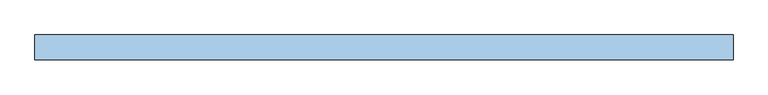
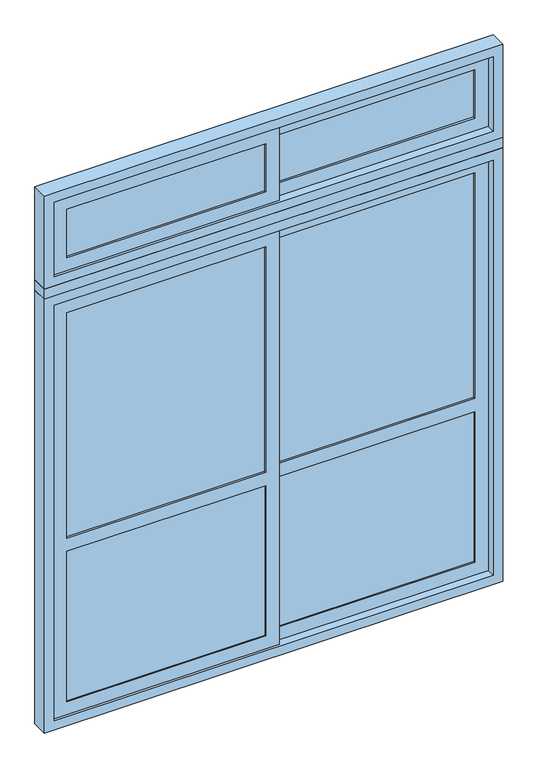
"""IFC4 building model written with IfcOpenShell, lengths in millimetres: window geometry, A7 Ventana_Corrediza_PC_2 hojas : A7.1 Ventana_Corrediza_PC_2 hojas 210x260."""

import ifcopenshell
import ifcopenshell.guid

model = None  # the IFC model being written
_history = None  # IfcOwnerHistory: only IFC2X3 demands one
_inside = {}  # id of a spatial element -> (the spatial element, [elements in it])
_under = {}  # id of a project, library or spatial element -> (it, [spatial elements below it])
_declared = {}  # id of a project -> (the project, [libraries it declares])
_typed = {}  # id of a type object -> (the type object, [elements of that type])
_made_of = {}  # id of a material, layer set ... -> (it, [elements and type objects made of it])


def new_model(schema):
    """Start an empty IFC model of exactly this schema.

    Asked for "IFC4X3", IfcOpenShell would pick the latest addendum, in which some entities
    have other attributes; the version numbers below select the first issue.
    IFC2X3 requires an IfcOwnerHistory on every rooted entity: one is made here for all.
    """
    global model, _history
    if schema == "IFC4X3":
        model = ifcopenshell.file(schema_version=(4, 3, 0, 0))
    else:
        model = ifcopenshell.file(schema=schema)
    _inside.clear()
    _under.clear()
    _declared.clear()
    _typed.clear()
    _made_of.clear()
    _history = None
    if model.schema == "IFC2X3":
        org = make("IfcOrganization", Name="unknown")
        user = make(
            "IfcPersonAndOrganization",
            ThePerson=make("IfcPerson", FamilyName="unknown"),
            TheOrganization=org,
        )
        app = make(
            "IfcApplication",
            ApplicationDeveloper=org,
            Version="unknown",
            ApplicationFullName="unknown",
            ApplicationIdentifier="unknown",
        )
        _history = make(
            "IfcOwnerHistory",
            OwningUser=user,
            OwningApplication=app,
            ChangeAction="ADDED",
            CreationDate=0,
        )
    return model


def make(cls, **values):
    """One entity of the class cls with the attributes given. An attribute that is None is left unset."""
    return model.create_entity(
        cls, **{name: value for name, value in values.items() if value is not None}
    )


def rooted(cls, **values):
    """An entity with a GlobalId (a new one), such as an element, a storey or a relation."""
    return make(cls, GlobalId=ifcopenshell.guid.new(), OwnerHistory=_history, **values)


def si_unit(unit_type, name, prefix=None):
    """IfcSIUnit, for example si_unit("LENGTHUNIT", "METRE", prefix="MILLI")."""
    return make("IfcSIUnit", UnitType=unit_type, Prefix=prefix, Name=name)


def assignment(units):
    """IfcUnitAssignment: the units of a project."""
    return None if units is None else make("IfcUnitAssignment", Units=units)


def point(xyz):
    """IfcCartesianPoint."""
    return None if xyz is None else make("IfcCartesianPoint", Coordinates=xyz)


def direction(xyz):
    """IfcDirection."""
    return None if xyz is None else make("IfcDirection", DirectionRatios=xyz)


def frame(location, z_axis=None, x_axis=None):
    """IfcAxis2Placement3D, a coordinate frame: its origin and axes. An axis left out is left unset."""
    return make(
        "IfcAxis2Placement3D",
        Location=point(location),
        Axis=direction(z_axis),
        RefDirection=direction(x_axis),
    )


def origin():
    """The frame at (0, 0, 0) with its axes left unset."""
    return frame((0.0, 0.0, 0.0))


def place(relative_to, where):
    """IfcLocalPlacement: puts the frame where relative to a parent placement (None: the world)."""
    return make(
        "IfcLocalPlacement", PlacementRelTo=relative_to, RelativePlacement=where
    )


def context(
    kind, dimensions, precision=None, world=None, true_north=None, identifier=None
):
    """IfcGeometricRepresentationContext, for example the 3D "Model" context."""
    return make(
        "IfcGeometricRepresentationContext",
        ContextIdentifier=identifier,
        ContextType=kind,
        CoordinateSpaceDimension=dimensions,
        Precision=precision,
        WorldCoordinateSystem=world,
        TrueNorth=true_north,
    )


def project(units=None, contexts=None):
    """IfcProject with its units and contexts."""
    return rooted(
        "IfcProject",
        Name="project",
        RepresentationContexts=contexts,
        UnitsInContext=assignment(units),
    )


def spatial(cls, under=None, at=None, **own):
    """A site, building, storey or space (cls), placed at a placement, below another one or the project."""
    s = rooted(cls, ObjectPlacement=at, **own)
    if under is not None:
        _under.setdefault(under.id(), (under, []))[1].append(s)
    return s


def polyline(points):
    """IfcPolyline through the points."""
    return make("IfcPolyline", Points=[point(p) for p in points])


def outline(outer, holes=None, kind="AREA"):
    """IfcArbitraryClosedProfileDef: a profile drawn as a closed curve; with holes, ...WithVoids."""
    if holes is None:
        return make("IfcArbitraryClosedProfileDef", ProfileType=kind, OuterCurve=outer)
    return make(
        "IfcArbitraryProfileDefWithVoids",
        ProfileType=kind,
        OuterCurve=outer,
        InnerCurves=holes,
    )


def extrude(swept, where, along, depth):
    """IfcExtrudedAreaSolid: the profile swept, set in the frame where, extruded along a direction by depth."""
    return make(
        "IfcExtrudedAreaSolid",
        SweptArea=swept,
        Position=where,
        ExtrudedDirection=direction(along),
        Depth=depth,
    )


def shape(context_of_items, identifier, shape_type, items):
    """IfcShapeRepresentation: the items that make up one representation, for example the "Body"."""
    return make(
        "IfcShapeRepresentation",
        ContextOfItems=context_of_items,
        RepresentationIdentifier=identifier,
        RepresentationType=shape_type,
        Items=items,
    )


def source(mapping_origin, context_of_items, identifier, shape_type, items):
    """IfcRepresentationMap: a shape defined once, which mapped items show again and again."""
    return make(
        "IfcRepresentationMap",
        MappingOrigin=mapping_origin,
        MappedRepresentation=shape(context_of_items, identifier, shape_type, items),
    )


def transform(
    local_origin,
    x_axis=None,
    y_axis=None,
    z_axis=None,
    scale=None,
    scale2=None,
    scale3=None,
    uniform=True,
):
    """IfcCartesianTransformationOperator3D, or its non-uniform kind. x_axis, y_axis, z_axis: its Axis1, 2, 3."""
    if uniform:
        return make(
            "IfcCartesianTransformationOperator3D",
            Axis1=direction(x_axis),
            Axis2=direction(y_axis),
            LocalOrigin=point(local_origin),
            Scale=scale,
            Axis3=direction(z_axis),
        )
    return make(
        "IfcCartesianTransformationOperator3DnonUniform",
        Axis1=direction(x_axis),
        Axis2=direction(y_axis),
        LocalOrigin=point(local_origin),
        Scale=scale,
        Axis3=direction(z_axis),
        Scale2=scale2,
        Scale3=scale3,
    )


def mapped(mapping_source, mapping_target):
    """IfcMappedItem: shows the shape of a source again, moved by a transform."""
    return make(
        "IfcMappedItem", MappingSource=mapping_source, MappingTarget=mapping_target
    )


def made_of(thing, what):
    """Note that an element or type object is made of a material, layer set ...; save() writes the relation."""
    if what is not None:
        _made_of.setdefault(what.id(), (what, []))[1].append(thing)
    return thing


def element(
    cls,
    number,
    at=None,
    inside=None,
    cuts=None,
    type_object=None,
    material=None,
    context=None,
    identifier="Body",
    shape_type=None,
    held_by="IfcProductDefinitionShape",
    body=None,
    shapes=None,
    **own,
):
    """One element of the class cls, such as IfcWall. Its Tag is "e" and its number.

    at: its placement. inside: the storey or other place that contains it. cuts: it is an
    opening in that element (IfcRelVoidsElement). A single representation is given by context,
    identifier, shape_type and body (its items); several are given by shapes. held_by: the class
    of the entity that holds the representations. save() writes the other relations.
    """
    e = rooted(cls, Tag="e%d" % number, ObjectPlacement=at, **own)
    if body is not None:
        shapes = [shape(context, identifier, shape_type, body)]
    if shapes is not None:
        e.Representation = make(held_by, Representations=shapes)
    if inside is not None:
        _inside.setdefault(inside.id(), (inside, []))[1].append(e)
    if cuts is not None:
        rooted(
            "IfcRelVoidsElement", RelatingBuildingElement=cuts, RelatedOpeningElement=e
        )
    if type_object is not None:
        _typed.setdefault(type_object.id(), (type_object, []))[1].append(e)
    return made_of(e, material)


def aggregate(whole, parts):
    """IfcRelAggregates: a whole, such as a stair, and the parts it consists of."""
    return rooted("IfcRelAggregates", RelatingObject=whole, RelatedObjects=parts)


def save(model, path):
    """Write the relations noted so far, then the file.

    IfcRelAggregates (storeys below a building ...), IfcRelContainedInSpatialStructure (elements
    in a storey), IfcRelDefinesByType, IfcRelAssociatesMaterial and IfcRelDeclares: one each for
    every whole, place, type object, material and project.
    """
    for whole, parts in _under.values():
        aggregate(whole, parts)
    for where, things in _inside.values():
        rooted(
            "IfcRelContainedInSpatialStructure",
            RelatedElements=things,
            RelatingStructure=where,
        )
    for kind, things in _typed.values():
        rooted("IfcRelDefinesByType", RelatedObjects=things, RelatingType=kind)
    for what, things in _made_of.values():
        rooted("IfcRelAssociatesMaterial", RelatedObjects=things, RelatingMaterial=what)
    for by, libraries in _declared.values():
        rooted("IfcRelDeclares", RelatingContext=by, RelatedDefinitions=libraries)
    model.write(path)


def window_2e903966(model_context):
    return source(origin(), model_context, "Body", "SweptSolid", [
        extrude(outline(polyline([(-31.5, 28.0), (-942.0, 28.0), (-942.0, 44.0), (-31.5, 44.0), (-31.5, 28.0)])), frame((0.0, 0.0, 108.0), z_axis=(0.0, 0.0, 1.0), x_axis=(1.0, 0.0, 0.0)), (0.0, 0.0, 1.0), 728.0),
        extrude(outline(polyline([(942.0, 56.0), (31.5, 56.0), (31.5, 72.0), (942.0, 72.0), (942.0, 56.0)])), frame((0.0, 0.0, 108.0), z_axis=(0.0, 0.0, 1.0), x_axis=(1.0, 0.0, 0.0)), (0.0, 0.0, 1.0), 728.0),
        extrude(outline(polyline([(-31.5, 31.5769719), (-942.0, 31.5769719), (-942.0, 40.4230281), (-31.5, 40.4230281), (-31.5, 31.5769719)])), frame((0.0, 0.0, 2258.0), z_axis=(0.0, 0.0, 1.0), x_axis=(1.0, 0.0, 0.0)), (0.0, 0.0, 1.0), 234.0),
        extrude(outline(polyline([(-31.5, 31.5769719), (-942.0, 31.5769719), (-942.0, 40.4230281), (-31.5, 40.4230281), (-31.5, 31.5769719)])), frame((0.0, 0.0, 900.0), z_axis=(0.0, 0.0, 1.0), x_axis=(1.0, 0.0, 0.0)), (0.0, 0.0, 1.0), 1092.0),
        extrude(outline(polyline([(942.0, 59.5769719), (31.5, 59.5769719), (31.5, 68.4230281), (942.0, 68.4230281), (942.0, 59.5769719)])), frame((0.0, 0.0, 2258.0), z_axis=(0.0, 0.0, 1.0), x_axis=(1.0, 0.0, 0.0)), (0.0, 0.0, 1.0), 234.0),
        extrude(outline(polyline([(942.0, 59.5769719), (31.5, 59.5769719), (31.5, 68.4230281), (942.0, 68.4230281), (942.0, 59.5769719)])), frame((0.0, 0.0, 900.0), z_axis=(0.0, 0.0, 1.0), x_axis=(1.0, 0.0, 0.0)), (0.0, 0.0, 1.0), 1092.0),
        extrude(outline(polyline([(45.0, -1005.0), (45.0, 31.5), (2055.0, 31.5), (2055.0, -1005.0), (45.0, -1005.0)]), holes=[polyline([(900.0, -942.0), (1992.0, -942.0), (1992.0, -31.5), (900.0, -31.5), (900.0, -942.0)]), polyline([(108.0, -942.0), (836.0, -942.0), (836.0, -31.5), (108.0, -31.5), (108.0, -942.0)])]), frame((0.0, 22.0, 0.0), z_axis=(0.0, 1.0, 0.0), x_axis=(0.0, 0.0, 1.0)), (0.0, 0.0, 1.0), 28.0),
        extrude(outline(polyline([(2555.0, -1005.0), (2195.0, -1005.0), (2195.0, 31.5), (2555.0, 31.5), (2555.0, -1005.0)]), holes=[polyline([(2258.0, -942.0), (2492.0, -942.0), (2492.0, -31.5), (2258.0, -31.5), (2258.0, -942.0)])]), frame((0.0, 22.0, 0.0), z_axis=(0.0, 1.0, 0.0), x_axis=(0.0, 0.0, 1.0)), (0.0, 0.0, 1.0), 28.0),
        extrude(outline(polyline([(2055.0, 1005.0), (2055.0, -31.5), (45.0, -31.5), (45.0, 1005.0), (2055.0, 1005.0)]), holes=[polyline([(1992.0, 31.5), (1992.0, 942.0), (900.0, 942.0), (900.0, 31.5), (1992.0, 31.5)]), polyline([(836.0, 31.5), (836.0, 942.0), (108.0, 942.0), (108.0, 31.5), (836.0, 31.5)])]), frame((0.0, 50.0, 0.0), z_axis=(0.0, 1.0, 0.0), x_axis=(0.0, 0.0, 1.0)), (0.0, 0.0, 1.0), 28.0),
        extrude(outline(polyline([(2195.0, -31.5), (2195.0, 1005.0), (2555.0, 1005.0), (2555.0, -31.5), (2195.0, -31.5)]), holes=[polyline([(2492.0, 31.5), (2492.0, 942.0), (2258.0, 942.0), (2258.0, 31.5), (2492.0, 31.5)])]), frame((0.0, 50.0, 0.0), z_axis=(0.0, 1.0, 0.0), x_axis=(0.0, 0.0, 1.0)), (0.0, 0.0, 1.0), 28.0),
        extrude(outline(polyline([(2100.0, -1050.0), (0.0, -1050.0), (0.0, 1050.0), (2100.0, 1050.0), (2100.0, -1050.0)]), holes=[polyline([(2055.0, -1005.0), (2055.0, 1005.0), (45.0, 1005.0), (45.0, -1005.0), (2055.0, -1005.0)])]), frame((0.0, 12.5, 0.0), z_axis=(0.0, 1.0, 0.0), x_axis=(0.0, 0.0, 1.0)), (0.0, 0.0, 1.0), 75.0),
        extrude(outline(polyline([(2600.0, -1050.0), (2150.0, -1050.0), (2150.0, 1050.0), (2600.0, 1050.0), (2600.0, -1050.0)]), holes=[polyline([(2555.0, -1005.0), (2555.0, 1005.0), (2195.0, 1005.0), (2195.0, -1005.0), (2555.0, -1005.0)])]), frame((0.0, 12.5, 0.0), z_axis=(0.0, 1.0, 0.0), x_axis=(0.0, 0.0, 1.0)), (0.0, 0.0, 1.0), 75.0),
        extrude(outline(polyline([(1050.0, 12.5), (-1050.0, 12.5), (-1050.0, 87.5), (1050.0, 87.5), (1050.0, 12.5)])), frame((0.0, 0.0, 2100.0), z_axis=(0.0, 0.0, 1.0), x_axis=(1.0, 0.0, 0.0)), (0.0, 0.0, 1.0), 50.0),
    ])


if __name__ == "__main__":
    model = new_model("IFC4")
    model_context = context("Model", 3, world=origin())
    ifc_project = project(units=[si_unit("LENGTHUNIT", "METRE", prefix="MILLI")], contexts=[model_context])
    site = spatial("IfcSite", under=ifc_project)
    building = spatial("IfcBuilding", under=site)
    placement = place(None, origin())
    window_shape = window_2e903966(model_context)
    element("IfcWindow", 1, ObjectType="A7 Ventana_Corrediza_PC_2 hojas : A7.1 Ventana_Corrediza_PC_2 hojas 210x260", at=placement, inside=building, context=model_context, shape_type="MappedRepresentation", body=[
        mapped(window_shape, transform((0.0, 0.0, 0.0), x_axis=(1.0, 0.0, 0.0), y_axis=(0.0, 1.0, 0.0), z_axis=(0.0, 0.0, 1.0))),
    ])
    save(model, "model.ifc")
